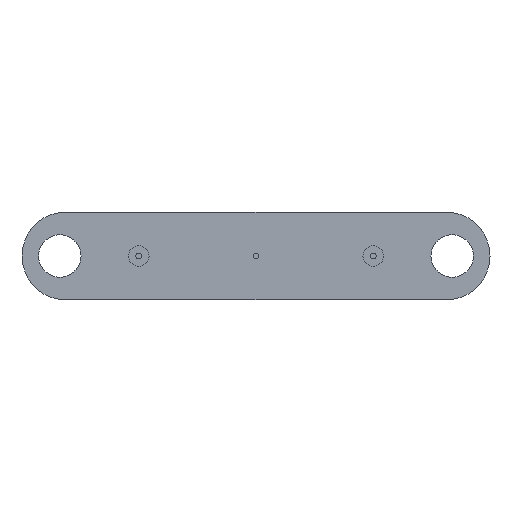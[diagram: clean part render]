
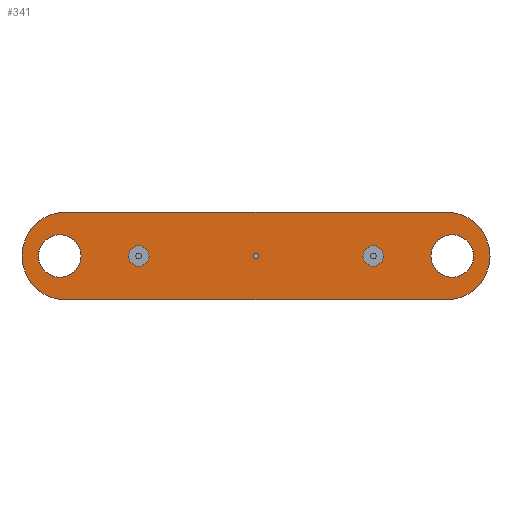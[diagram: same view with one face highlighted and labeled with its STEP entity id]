
A CAD part, front view. The second image highlights one B-rep face of the part: STEP entity #341.
In plain terms, the highlighted planar face has unit normal (0, -1, 0).
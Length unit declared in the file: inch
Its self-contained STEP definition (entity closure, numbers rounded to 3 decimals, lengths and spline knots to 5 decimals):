
#14 = EDGE_CURVE ( 'NONE', #575, #133, #938, .T. ) ;
#16 = FACE_BOUND ( 'NONE', #138, .T. ) ;
#18 = AXIS2_PLACEMENT_3D ( 'NONE', #837, #634, #476 ) ;
#50 = DIRECTION ( 'NONE',  ( -1., 0., 0. ) ) ;
#77 = CARTESIAN_POINT ( 'NONE',  ( 0.67025, -0.05, 0.0725 ) ) ;
#83 = VERTEX_POINT ( 'NONE', #795 ) ;
#92 = DIRECTION ( 'NONE',  ( 0., 1., 0. ) ) ;
#96 = CIRCLE ( 'NONE', #172, 0.0725 ) ;
#113 = DIRECTION ( 'NONE',  ( 0., 0., 1. ) ) ;
#116 = CARTESIAN_POINT ( 'NONE',  ( 0.67025, -0.05, 0. ) ) ;
#118 = CARTESIAN_POINT ( 'NONE',  ( -0.4, -0.05, 0. ) ) ;
#124 = VECTOR ( 'NONE', #50, 39.37008 ) ;
#128 = ORIENTED_EDGE ( 'NONE', *, *, #464, .T. ) ;
#133 = VERTEX_POINT ( 'NONE', #291 ) ;
#138 = EDGE_LOOP ( 'NONE', ( #525 ) ) ;
#142 = AXIS2_PLACEMENT_3D ( 'NONE', #118, #572, #113 ) ;
#155 = EDGE_CURVE ( 'NONE', #447, #447, #943, .T. ) ;
#172 = AXIS2_PLACEMENT_3D ( 'NONE', #116, #797, #211 ) ;
#186 = FACE_BOUND ( 'NONE', #881, .T. ) ;
#187 = CIRCLE ( 'NONE', #470, 0.15 ) ;
#211 = DIRECTION ( 'NONE',  ( 0., 0., 1. ) ) ;
#224 = ORIENTED_EDGE ( 'NONE', *, *, #612, .T. ) ;
#226 = VERTEX_POINT ( 'NONE', #541 ) ;
#236 = AXIS2_PLACEMENT_3D ( 'NONE', #598, #727, #890 ) ;
#240 = VERTEX_POINT ( 'NONE', #908 ) ;
#241 = CARTESIAN_POINT ( 'NONE',  ( 0.00025, -0.05, 0. ) ) ;
#271 = EDGE_CURVE ( 'NONE', #575, #240, #187, .T. ) ;
#290 = EDGE_CURVE ( 'NONE', #888, #888, #829, .T. ) ;
#291 = CARTESIAN_POINT ( 'NONE',  ( -0.64875, -0.05, -0.15 ) ) ;
#295 = EDGE_LOOP ( 'NONE', ( #128 ) ) ;
#307 = CARTESIAN_POINT ( 'NONE',  ( -0.4, -0.05, 0.035 ) ) ;
#320 = FACE_BOUND ( 'NONE', #533, .T. ) ;
#331 = CARTESIAN_POINT ( 'NONE',  ( 0.00025, -0.05, 0.15 ) ) ;
#341 = ADVANCED_FACE ( 'Defeatured_0_28', ( #855, #16, #186, #633, #320, #620 ), #916, .F. ) ;
#349 = CARTESIAN_POINT ( 'NONE',  ( -0.64875, -0.05, 0. ) ) ;
#356 = DIRECTION ( 'NONE',  ( 0., 1., 0. ) ) ;
#365 = EDGE_CURVE ( 'NONE', #133, #83, #879, .T. ) ;
#392 = VERTEX_POINT ( 'NONE', #77 ) ;
#395 = DIRECTION ( 'NONE',  ( 0., 0., 1. ) ) ;
#398 = LINE ( 'NONE', #331, #756 ) ;
#412 = CARTESIAN_POINT ( 'NONE',  ( 0.00025, -0.05, -0.15 ) ) ;
#434 = ORIENTED_EDGE ( 'NONE', *, *, #290, .F. ) ;
#441 = CIRCLE ( 'NONE', #18, 0.01 ) ;
#447 = VERTEX_POINT ( 'NONE', #688 ) ;
#448 = ORIENTED_EDGE ( 'NONE', *, *, #518, .T. ) ;
#464 = EDGE_CURVE ( 'NONE', #741, #741, #621, .T. ) ;
#470 = AXIS2_PLACEMENT_3D ( 'NONE', #649, #931, #614 ) ;
#476 = DIRECTION ( 'NONE',  ( 0., 0., 1. ) ) ;
#518 = EDGE_CURVE ( 'NONE', #240, #83, #398, .T. ) ;
#525 = ORIENTED_EDGE ( 'NONE', *, *, #838, .F. ) ;
#533 = EDGE_LOOP ( 'NONE', ( #434 ) ) ;
#541 = CARTESIAN_POINT ( 'NONE',  ( 0.00025, -0.05, 0.01 ) ) ;
#572 = DIRECTION ( 'NONE',  ( 0., -1., 0. ) ) ;
#575 = VERTEX_POINT ( 'NONE', #771 ) ;
#598 = CARTESIAN_POINT ( 'NONE',  ( -0.66975, -0.05, 0. ) ) ;
#612 = EDGE_CURVE ( 'NONE', #226, #226, #441, .T. ) ;
#614 = DIRECTION ( 'NONE',  ( 0., 0., 1. ) ) ;
#620 = FACE_OUTER_BOUND ( 'NONE', #834, .T. ) ;
#621 = CIRCLE ( 'NONE', #236, 0.0725 ) ;
#633 = FACE_BOUND ( 'NONE', #907, .T. ) ;
#634 = DIRECTION ( 'NONE',  ( 0., 1., 0. ) ) ;
#643 = AXIS2_PLACEMENT_3D ( 'NONE', #241, #92, #395 ) ;
#649 = CARTESIAN_POINT ( 'NONE',  ( 0.64925, -0.05, 0. ) ) ;
#661 = AXIS2_PLACEMENT_3D ( 'NONE', #961, #809, #884 ) ;
#671 = ORIENTED_EDGE ( 'NONE', *, *, #14, .F. ) ;
#688 = CARTESIAN_POINT ( 'NONE',  ( 0.4005, -0.05, 0.035 ) ) ;
#727 = DIRECTION ( 'NONE',  ( 0., 1., 0. ) ) ;
#741 = VERTEX_POINT ( 'NONE', #909 ) ;
#756 = VECTOR ( 'NONE', #776, 39.37008 ) ;
#771 = CARTESIAN_POINT ( 'NONE',  ( 0.64925, -0.05, -0.15 ) ) ;
#772 = ORIENTED_EDGE ( 'NONE', *, *, #271, .T. ) ;
#776 = DIRECTION ( 'NONE',  ( -1., 0., 0. ) ) ;
#795 = CARTESIAN_POINT ( 'NONE',  ( -0.64875, -0.05, 0.15 ) ) ;
#797 = DIRECTION ( 'NONE',  ( 0., -1., 0. ) ) ;
#809 = DIRECTION ( 'NONE',  ( 0., -1., 0. ) ) ;
#829 = CIRCLE ( 'NONE', #142, 0.035 ) ;
#834 = EDGE_LOOP ( 'NONE', ( #671, #772, #448, #854 ) ) ;
#837 = CARTESIAN_POINT ( 'NONE',  ( 0.00025, -0.05, 0. ) ) ;
#838 = EDGE_CURVE ( 'NONE', #392, #392, #96, .T. ) ;
#854 = ORIENTED_EDGE ( 'NONE', *, *, #365, .F. ) ;
#855 = FACE_BOUND ( 'NONE', #295, .T. ) ;
#858 = AXIS2_PLACEMENT_3D ( 'NONE', #349, #356, #882 ) ;
#879 = CIRCLE ( 'NONE', #858, 0.15 ) ;
#881 = EDGE_LOOP ( 'NONE', ( #224 ) ) ;
#882 = DIRECTION ( 'NONE',  ( 0., 0., 1. ) ) ;
#884 = DIRECTION ( 'NONE',  ( 0., 0., 1. ) ) ;
#888 = VERTEX_POINT ( 'NONE', #307 ) ;
#890 = DIRECTION ( 'NONE',  ( 0., 0., 1. ) ) ;
#901 = ORIENTED_EDGE ( 'NONE', *, *, #155, .F. ) ;
#907 = EDGE_LOOP ( 'NONE', ( #901 ) ) ;
#908 = CARTESIAN_POINT ( 'NONE',  ( 0.64925, -0.05, 0.15 ) ) ;
#909 = CARTESIAN_POINT ( 'NONE',  ( -0.66975, -0.05, 0.0725 ) ) ;
#916 = PLANE ( 'NONE',  #643 ) ;
#931 = DIRECTION ( 'NONE',  ( 0., -1., 0. ) ) ;
#938 = LINE ( 'NONE', #412, #124 ) ;
#943 = CIRCLE ( 'NONE', #661, 0.035 ) ;
#961 = CARTESIAN_POINT ( 'NONE',  ( 0.4005, -0.05, 0. ) ) ;
